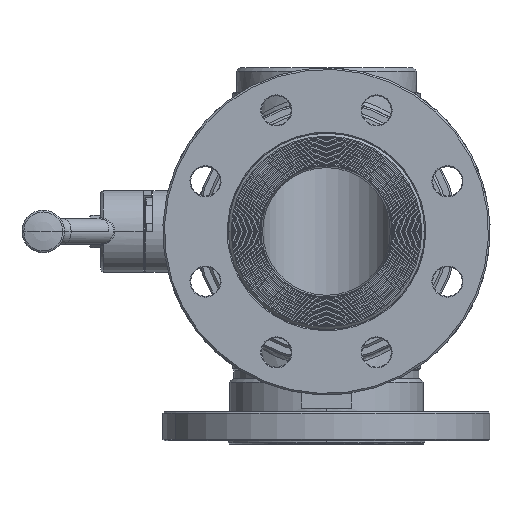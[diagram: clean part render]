
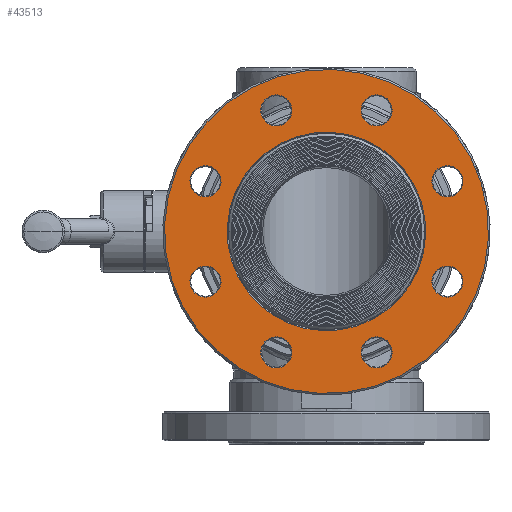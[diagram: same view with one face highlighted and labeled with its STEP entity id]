
A CAD part, left-side view. The second image highlights one B-rep face of the part: STEP entity #43513.
In plain terms, the highlighted planar face has unit normal (-1, 0, 0).
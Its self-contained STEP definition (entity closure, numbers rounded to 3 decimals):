
#18456=CARTESIAN_POINT('',(-128.,0.,0.));
#18457=DIRECTION('',(-1.,0.,0.));
#18458=DIRECTION('',(0.,0.924,0.383));
#18459=AXIS2_PLACEMENT_3D('',#18456,#18457,#18458);
#18464=CARTESIAN_POINT('',(-128.,0.,0.));
#18465=DIRECTION('',(-1.,0.,0.));
#18466=DIRECTION('',(0.,-0.924,-0.383));
#18467=AXIS2_PLACEMENT_3D('',#18464,#18465,#18466);
#18472=CARTESIAN_POINT('',(-128.,0.,0.));
#18473=DIRECTION('',(-1.,0.,0.));
#18474=DIRECTION('',(0.,0.924,0.383));
#18475=AXIS2_PLACEMENT_3D('',#18472,#18473,#18474);
#18480=CARTESIAN_POINT('',(-128.,0.,0.));
#18481=DIRECTION('',(-1.,0.,0.));
#18482=DIRECTION('',(0.,-0.924,-0.383));
#18483=AXIS2_PLACEMENT_3D('',#18480,#18481,#18482);
#18488=CARTESIAN_POINT('',(-128.,-30.615,-73.91));
#18489=DIRECTION('',(1.,0.,0.));
#18490=DIRECTION('',(0.,-0.924,-0.383));
#18491=AXIS2_PLACEMENT_3D('',#18488,#18489,#18490);
#18496=CARTESIAN_POINT('',(-128.,-30.615,-73.91));
#18497=DIRECTION('',(1.,0.,0.));
#18498=DIRECTION('',(0.,0.924,0.383));
#18499=AXIS2_PLACEMENT_3D('',#18496,#18497,#18498);
#18504=CARTESIAN_POINT('',(-128.,-73.91,-30.615));
#18505=DIRECTION('',(1.,0.,0.));
#18506=DIRECTION('',(0.,-0.924,-0.383));
#18507=AXIS2_PLACEMENT_3D('',#18504,#18505,#18506);
#18512=CARTESIAN_POINT('',(-128.,-73.91,-30.615));
#18513=DIRECTION('',(1.,0.,0.));
#18514=DIRECTION('',(0.,0.924,0.383));
#18515=AXIS2_PLACEMENT_3D('',#18512,#18513,#18514);
#18520=CARTESIAN_POINT('',(-128.,-73.91,30.615));
#18521=DIRECTION('',(1.,0.,0.));
#18522=DIRECTION('',(0.,-0.924,-0.383));
#18523=AXIS2_PLACEMENT_3D('',#18520,#18521,#18522);
#18528=CARTESIAN_POINT('',(-128.,-73.91,30.615));
#18529=DIRECTION('',(1.,0.,0.));
#18530=DIRECTION('',(0.,0.924,0.383));
#18531=AXIS2_PLACEMENT_3D('',#18528,#18529,#18530);
#18536=CARTESIAN_POINT('',(-128.,-30.615,73.91));
#18537=DIRECTION('',(1.,0.,0.));
#18538=DIRECTION('',(0.,-0.924,-0.383));
#18539=AXIS2_PLACEMENT_3D('',#18536,#18537,#18538);
#18544=CARTESIAN_POINT('',(-128.,-30.615,73.91));
#18545=DIRECTION('',(1.,0.,0.));
#18546=DIRECTION('',(0.,0.924,0.383));
#18547=AXIS2_PLACEMENT_3D('',#18544,#18545,#18546);
#18552=CARTESIAN_POINT('',(-128.,30.615,73.91));
#18553=DIRECTION('',(1.,0.,0.));
#18554=DIRECTION('',(0.,-0.924,-0.383));
#18555=AXIS2_PLACEMENT_3D('',#18552,#18553,#18554);
#18560=CARTESIAN_POINT('',(-128.,30.615,73.91));
#18561=DIRECTION('',(1.,0.,0.));
#18562=DIRECTION('',(0.,0.924,0.383));
#18563=AXIS2_PLACEMENT_3D('',#18560,#18561,#18562);
#18568=CARTESIAN_POINT('',(-128.,73.91,30.615));
#18569=DIRECTION('',(1.,0.,0.));
#18570=DIRECTION('',(0.,-0.924,-0.383));
#18571=AXIS2_PLACEMENT_3D('',#18568,#18569,#18570);
#18576=CARTESIAN_POINT('',(-128.,73.91,30.615));
#18577=DIRECTION('',(1.,0.,0.));
#18578=DIRECTION('',(0.,0.924,0.383));
#18579=AXIS2_PLACEMENT_3D('',#18576,#18577,#18578);
#18584=CARTESIAN_POINT('',(-128.,73.91,-30.615));
#18585=DIRECTION('',(1.,0.,0.));
#18586=DIRECTION('',(0.,-0.924,-0.383));
#18587=AXIS2_PLACEMENT_3D('',#18584,#18585,#18586);
#18592=CARTESIAN_POINT('',(-128.,73.91,-30.615));
#18593=DIRECTION('',(1.,0.,0.));
#18594=DIRECTION('',(0.,0.924,0.383));
#18595=AXIS2_PLACEMENT_3D('',#18592,#18593,#18594);
#18600=CARTESIAN_POINT('',(-128.,30.615,-73.91));
#18601=DIRECTION('',(1.,0.,0.));
#18602=DIRECTION('',(0.,-0.924,-0.383));
#18603=AXIS2_PLACEMENT_3D('',#18600,#18601,#18602);
#18608=CARTESIAN_POINT('',(-128.,30.615,-73.91));
#18609=DIRECTION('',(1.,0.,0.));
#18610=DIRECTION('',(0.,0.924,0.383));
#18611=AXIS2_PLACEMENT_3D('',#18608,#18609,#18610);
#24676=CARTESIAN_POINT('',(-128.,56.033,23.21));
#24677=CARTESIAN_POINT('',(-128.,-56.033,-23.21));
#24678=VERTEX_POINT('',#24676);
#24679=VERTEX_POINT('',#24677);
#24692=CARTESIAN_POINT('',(-128.,91.464,37.886));
#24693=CARTESIAN_POINT('',(-128.,-91.464,-37.886));
#24694=VERTEX_POINT('',#24692);
#24695=VERTEX_POINT('',#24693);
#24764=CARTESIAN_POINT('',(-128.,-39.391,-77.546));
#24765=CARTESIAN_POINT('',(-128.,-21.838,-70.275));
#24766=VERTEX_POINT('',#24764);
#24767=VERTEX_POINT('',#24765);
#24772=CARTESIAN_POINT('',(-128.,-82.687,-34.25));
#24773=CARTESIAN_POINT('',(-128.,-65.134,-26.979));
#24774=VERTEX_POINT('',#24772);
#24775=VERTEX_POINT('',#24773);
#24780=CARTESIAN_POINT('',(-128.,-82.687,26.979));
#24781=CARTESIAN_POINT('',(-128.,-65.134,34.25));
#24782=VERTEX_POINT('',#24780);
#24783=VERTEX_POINT('',#24781);
#24788=CARTESIAN_POINT('',(-128.,-39.391,70.275));
#24789=CARTESIAN_POINT('',(-128.,-21.838,77.546));
#24790=VERTEX_POINT('',#24788);
#24791=VERTEX_POINT('',#24789);
#24796=CARTESIAN_POINT('',(-128.,21.838,70.275));
#24797=CARTESIAN_POINT('',(-128.,39.391,77.546));
#24798=VERTEX_POINT('',#24796);
#24799=VERTEX_POINT('',#24797);
#24804=CARTESIAN_POINT('',(-128.,65.134,26.979));
#24805=CARTESIAN_POINT('',(-128.,82.687,34.25));
#24806=VERTEX_POINT('',#24804);
#24807=VERTEX_POINT('',#24805);
#24812=CARTESIAN_POINT('',(-128.,65.134,-34.25));
#24813=CARTESIAN_POINT('',(-128.,82.687,-26.979));
#24814=VERTEX_POINT('',#24812);
#24815=VERTEX_POINT('',#24813);
#24820=CARTESIAN_POINT('',(-128.,21.838,-77.546));
#24821=CARTESIAN_POINT('',(-128.,39.391,-70.275));
#24822=VERTEX_POINT('',#24820);
#24823=VERTEX_POINT('',#24821);
#43449=CARTESIAN_POINT('',(-128.,0.,0.));
#43450=DIRECTION('',(-1.,0.,0.));
#43451=DIRECTION('',(0.,-0.924,-0.383));
#43452=AXIS2_PLACEMENT_3D('',#43449,#43450,#43451);
#43453=PLANE('',#43452);
#43454=ORIENTED_EDGE('',*,*,#43439,.F.);
#43456=ORIENTED_EDGE('',*,*,#43455,.F.);
#43457=EDGE_LOOP('',(#43454,#43456));
#43458=FACE_OUTER_BOUND('',#43457,.F.);
#43460=ORIENTED_EDGE('',*,*,#43459,.T.);
#43462=ORIENTED_EDGE('',*,*,#43461,.T.);
#43463=EDGE_LOOP('',(#43460,#43462));
#43464=FACE_BOUND('',#43463,.F.);
#43466=ORIENTED_EDGE('',*,*,#43465,.F.);
#43468=ORIENTED_EDGE('',*,*,#43467,.F.);
#43469=EDGE_LOOP('',(#43466,#43468));
#43470=FACE_BOUND('',#43469,.F.);
#43472=ORIENTED_EDGE('',*,*,#43471,.F.);
#43474=ORIENTED_EDGE('',*,*,#43473,.F.);
#43475=EDGE_LOOP('',(#43472,#43474));
#43476=FACE_BOUND('',#43475,.F.);
#43478=ORIENTED_EDGE('',*,*,#43477,.F.);
#43480=ORIENTED_EDGE('',*,*,#43479,.F.);
#43481=EDGE_LOOP('',(#43478,#43480));
#43482=FACE_BOUND('',#43481,.F.);
#43484=ORIENTED_EDGE('',*,*,#43483,.F.);
#43486=ORIENTED_EDGE('',*,*,#43485,.F.);
#43487=EDGE_LOOP('',(#43484,#43486));
#43488=FACE_BOUND('',#43487,.F.);
#43490=ORIENTED_EDGE('',*,*,#43489,.F.);
#43492=ORIENTED_EDGE('',*,*,#43491,.F.);
#43493=EDGE_LOOP('',(#43490,#43492));
#43494=FACE_BOUND('',#43493,.F.);
#43496=ORIENTED_EDGE('',*,*,#43495,.F.);
#43498=ORIENTED_EDGE('',*,*,#43497,.F.);
#43499=EDGE_LOOP('',(#43496,#43498));
#43500=FACE_BOUND('',#43499,.F.);
#43502=ORIENTED_EDGE('',*,*,#43501,.F.);
#43504=ORIENTED_EDGE('',*,*,#43503,.F.);
#43505=EDGE_LOOP('',(#43502,#43504));
#43506=FACE_BOUND('',#43505,.F.);
#43508=ORIENTED_EDGE('',*,*,#43507,.F.);
#43510=ORIENTED_EDGE('',*,*,#43509,.F.);
#43511=EDGE_LOOP('',(#43508,#43510));
#43512=FACE_BOUND('',#43511,.F.);
#43513=ADVANCED_FACE('',(#43458,#43464,#43470,#43476,#43482,#43488,#43494,
#43500,#43506,#43512),#43453,.T.);
#18460=CIRCLE('',#18459,60.65);
#18468=CIRCLE('',#18467,60.65);
#18476=CIRCLE('',#18475,99.);
#18484=CIRCLE('',#18483,99.);
#18492=CIRCLE('',#18491,9.5);
#18500=CIRCLE('',#18499,9.5);
#18508=CIRCLE('',#18507,9.5);
#18516=CIRCLE('',#18515,9.5);
#18524=CIRCLE('',#18523,9.5);
#18532=CIRCLE('',#18531,9.5);
#18540=CIRCLE('',#18539,9.5);
#18548=CIRCLE('',#18547,9.5);
#18556=CIRCLE('',#18555,9.5);
#18564=CIRCLE('',#18563,9.5);
#18572=CIRCLE('',#18571,9.5);
#18580=CIRCLE('',#18579,9.5);
#18588=CIRCLE('',#18587,9.5);
#18596=CIRCLE('',#18595,9.5);
#18604=CIRCLE('',#18603,9.5);
#18612=CIRCLE('',#18611,9.5);
#43439=EDGE_CURVE('',#24694,#24695,#18476,.T.);
#43455=EDGE_CURVE('',#24695,#24694,#18484,.T.);
#43459=EDGE_CURVE('',#24678,#24679,#18460,.T.);
#43461=EDGE_CURVE('',#24679,#24678,#18468,.T.);
#43465=EDGE_CURVE('',#24766,#24767,#18492,.T.);
#43467=EDGE_CURVE('',#24767,#24766,#18500,.T.);
#43471=EDGE_CURVE('',#24774,#24775,#18508,.T.);
#43473=EDGE_CURVE('',#24775,#24774,#18516,.T.);
#43477=EDGE_CURVE('',#24782,#24783,#18524,.T.);
#43479=EDGE_CURVE('',#24783,#24782,#18532,.T.);
#43483=EDGE_CURVE('',#24790,#24791,#18540,.T.);
#43485=EDGE_CURVE('',#24791,#24790,#18548,.T.);
#43489=EDGE_CURVE('',#24798,#24799,#18556,.T.);
#43491=EDGE_CURVE('',#24799,#24798,#18564,.T.);
#43495=EDGE_CURVE('',#24806,#24807,#18572,.T.);
#43497=EDGE_CURVE('',#24807,#24806,#18580,.T.);
#43501=EDGE_CURVE('',#24814,#24815,#18588,.T.);
#43503=EDGE_CURVE('',#24815,#24814,#18596,.T.);
#43507=EDGE_CURVE('',#24822,#24823,#18604,.T.);
#43509=EDGE_CURVE('',#24823,#24822,#18612,.T.);
